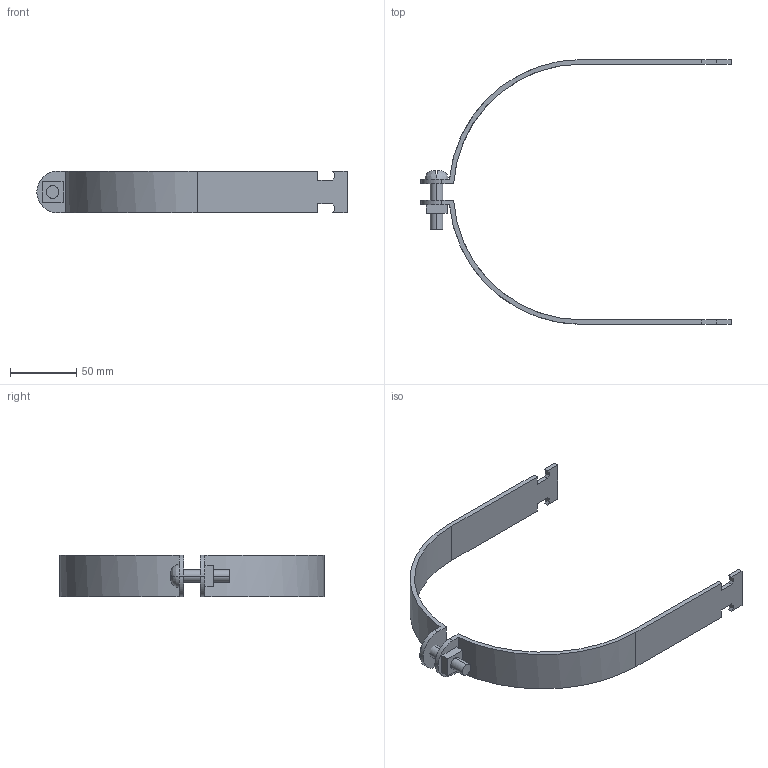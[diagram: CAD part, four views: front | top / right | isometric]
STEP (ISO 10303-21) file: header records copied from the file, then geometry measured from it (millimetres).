
FILE_DESCRIPTION(('TurboCAD Mac Pro'),'Build 980');
FILE_NAME('P2070-75.stp',' ',(''),(''),'ACIS Interop','IMSI','TurboCAD Mac Pro BY IMSI, INCORPORATED');
FILE_SCHEMA(('automotive_design'));
Length unit declared in the file: inch
Products named in the file (6): 1; 2; 3; 4; 5; 6
Bounding box: 234.95 x 200.5 x 31.75 mm (x, y, z)
Volume: 64733.2 mm3; surface area: 42282.5 mm2
Topology: 5 solids, 5 shells, 72 faces, 186 edges, 124 vertices
Faces by surface type: plane 52, bspline 20
Entity records: 3528 total; most frequent: CARTESIAN_POINT 1052, ORIENTED_EDGE 372, DIRECTION 262, EDGE_CURVE 186, LINE 138, VECTOR 138, VERTEX_POINT 124, STYLED_ITEM 93
